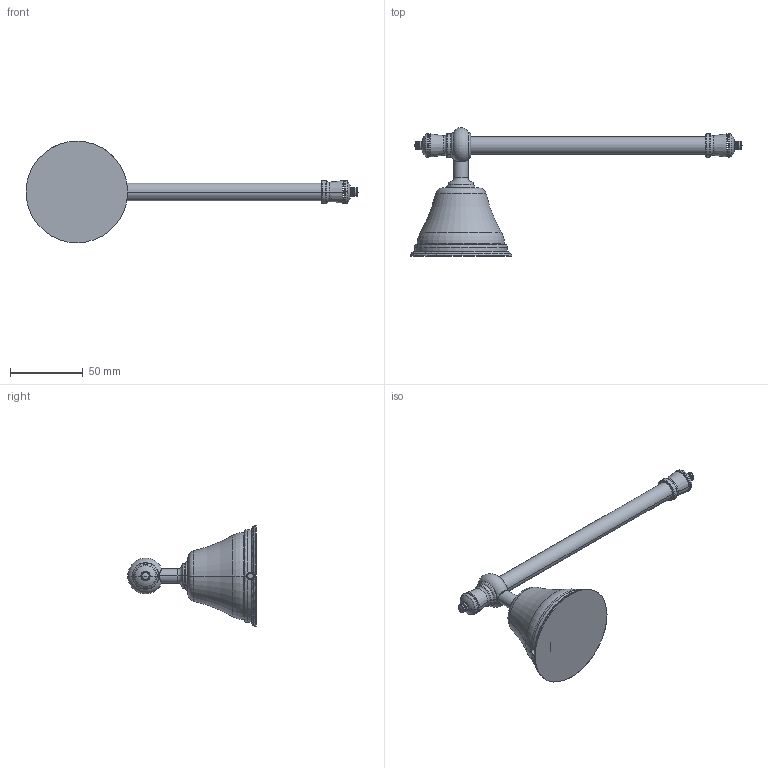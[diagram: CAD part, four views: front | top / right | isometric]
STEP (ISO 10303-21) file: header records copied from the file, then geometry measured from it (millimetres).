
FILE_DESCRIPTION((''),'2;1');
FILE_NAME('37317--00_SUB01_SW0001','2026-10-01T14:31:46',('simi1'),(''),'CREO PARAMETRIC BY PTC INC, 2022244','CREO PARAMETRIC BY PTC INC, 2022244','');
FILE_SCHEMA(('CONFIG_CONTROL_DESIGN'));
Length unit declared in the file: millimetre
Products named in the file (1): 37317--00_SUB01_SW0001
Bounding box: 228.65 x 88.48 x 70 mm (x, y, z)
Surface area: 27315.9 mm2 (no closed solid volume)
Topology: 0 solids, 16 shells, 151 faces, 330 edges, 185 vertices
Faces by surface type: torus 85, cylinder 37, plane 11, sphere 8, cone 6, bspline 4
Entity records: 5182 total; most frequent: CARTESIAN_POINT 1790, DIRECTION 851, ORIENTED_EDGE 605, AXIS2_PLACEMENT_3D 402, EDGE_CURVE 326, CIRCLE 255, VERTEX_POINT 185, EDGE_LOOP 151
